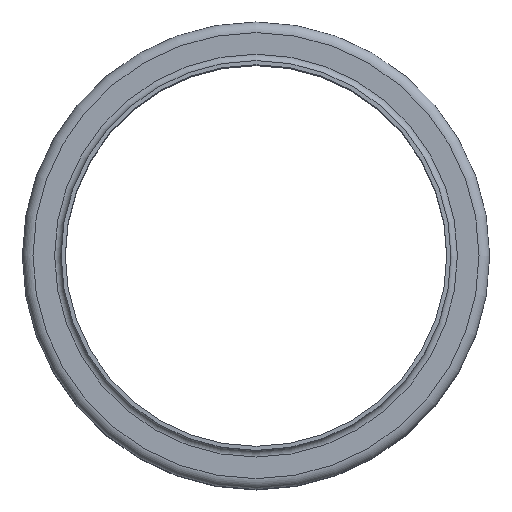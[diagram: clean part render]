
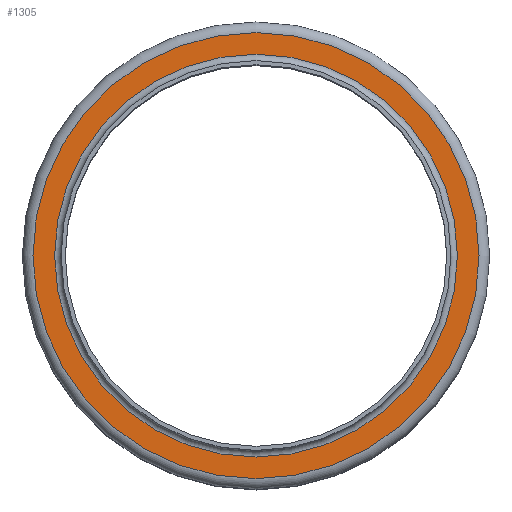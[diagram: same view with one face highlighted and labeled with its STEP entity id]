
A CAD part, top view. The second image highlights one B-rep face of the part: STEP entity #1305.
In plain terms, the highlighted planar face has unit normal (0, 0, 1).
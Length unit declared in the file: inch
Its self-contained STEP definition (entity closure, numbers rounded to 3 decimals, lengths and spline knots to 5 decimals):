
#130=FACE_BOUND('',#384,.T.);
#229=FACE_OUTER_BOUND('',#383,.T.);
#383=EDGE_LOOP('',(#1108));
#384=EDGE_LOOP('',(#1109));
#545=CIRCLE('',#1574,2.935);
#546=CIRCLE('',#1576,3.25);
#658=VERTEX_POINT('',#2470);
#659=VERTEX_POINT('',#2474);
#811=EDGE_CURVE('',#658,#658,#545,.T.);
#812=EDGE_CURVE('',#659,#659,#546,.T.);
#1108=ORIENTED_EDGE('',*,*,#812,.F.);
#1109=ORIENTED_EDGE('',*,*,#811,.T.);
#1206=PLANE('',#1575);
#1305=ADVANCED_FACE('',(#229,#130),#1206,.T.);
#1574=AXIS2_PLACEMENT_3D('',#2472,#2070,#2071);
#1575=AXIS2_PLACEMENT_3D('',#2473,#2072,#2073);
#1576=AXIS2_PLACEMENT_3D('',#2475,#2074,#2075);
#2070=DIRECTION('center_axis',(0.,0.,-1.));
#2071=DIRECTION('ref_axis',(1.,0.,0.));
#2072=DIRECTION('center_axis',(0.,0.,1.));
#2073=DIRECTION('ref_axis',(1.,0.,0.));
#2074=DIRECTION('center_axis',(0.,0.,-1.));
#2075=DIRECTION('ref_axis',(1.,0.,0.));
#2470=CARTESIAN_POINT('',(2.935,0.,-0.095));
#2472=CARTESIAN_POINT('Origin',(0.,0.,-0.095));
#2473=CARTESIAN_POINT('Origin',(0.,3.25,-0.095));
#2474=CARTESIAN_POINT('',(3.25,0.,-0.095));
#2475=CARTESIAN_POINT('Origin',(0.,0.,-0.095));
